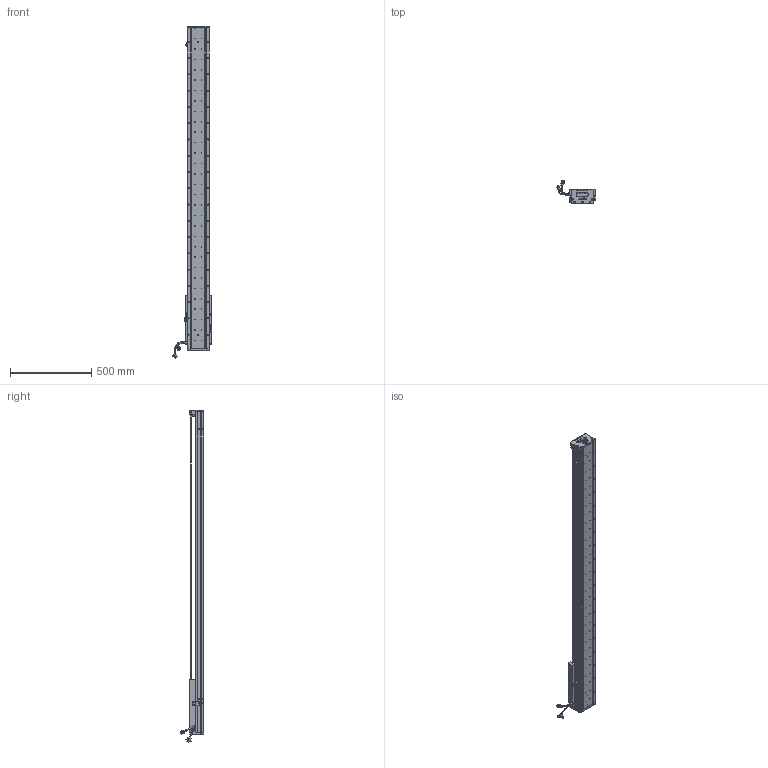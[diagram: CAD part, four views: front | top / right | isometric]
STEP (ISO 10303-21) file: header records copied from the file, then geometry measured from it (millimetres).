
FILE_DESCRIPTION (( 'STEP AP203' ), '1' );
FILE_NAME ('Z4-RY140D-1-L500-B-K.SLDASM_1600.step', '2021-05-17T08:17:00', ( '盈信电脑' ), ( '东莞市道滘镇水果街19号' ), 'SwSTEP 2.0', 'SolidWorks 2016', '' );
FILE_SCHEMA (( 'CONFIG_CONTROL_DESIGN' ));
Length unit declared in the file: millimetre
Products named in the file (36): SCALE-Part-2; SCREW-M1.6-1; 覜茼ん672; 詩湍狟揤裔; SEAL-Part-1; Z4-RY140-L500直线电机模组底座_1600; PSLH080_PSLF2; SCREW-M1.6; COVER-Part-1; SEAL; Z4-RY140圉猾敕臏賑輸(21遴); 榋妏寠巭燃_暯_M2_2; Z-RY140感应器672光电感应片; HOLDER0; 080黍杅芛假蚾釱21遴; HARNESS-Part-1; SCALE; HARNESS-Part-2; SCREW-M1.7-1; 140雄赽晤鎢ん堤盄; SHIELDPLATE; LABEL-Part-1; PBU_SHEET; Z4-RY140D-1-L500-B-K.SLDASM_1600; SCREW-M1.7; Z4-RY140-L500詩湍100mm遵_1600; SCREW-M1.6-2; Z-140詩湍傷裔啣; 140蚥薯蝶輸; HARNESS; SCREW-M1.6-3; SCALE-Part-1; 140-Z-臏賑輸盄裔(21遴); COVER; 詩湍奻揤裔; LABEL
Assembly tree (41 placements, depth 4):
  Z4-RY140D-1-L500-B-K.SLDASM_1600
    Z4-RY140-L500直线电机模组底座_1600
    Z-RY140感应器672光电感应片
    Z4-RY140圉猾敕臏賑輸(21遴)
    覜茼ん672  x3
    Z4-RY140-L500詩湍100mm遵_1600
    PSLH080_PSLF2
      SCALE
        SCALE-Part-1
        SCALE-Part-2
      HARNESS
        HARNESS-Part-1
        HARNESS-Part-2
      LABEL
        LABEL-Part-1
      COVER
        COVER-Part-1
      SEAL
        SEAL-Part-1
      榋妏寠巭燃_暯_M2_2
      SHIELDPLATE
      SCREW-M1.7
      SCREW-M1.7-1
      PBU_SHEET
      SCREW-M1.6
      SCREW-M1.6-1
      SCREW-M1.6-2
      SCREW-M1.6-3
      HOLDER0
    080黍杅芛假蚾釱21遴
    140-Z-臏賑輸盄裔(21遴)
    Z-140詩湍傷裔啣  x2
    詩湍狟揤裔  x2
    詩湍奻揤裔  x2
    140蚥薯蝶輸  x2
    140雄赽晤鎢ん堤盄
Bounding box: 239.84 x 143.88 x 2040.87 mm (x, y, z)
Volume: 6977342.4 mm3; surface area: 1790744.1 mm2
Topology: 36 solids, 36 shells, 3644 faces, 9802 edges, 6205 vertices
Faces by surface type: cylinder 1886, plane 1274, cone 362, torus 69, bspline 53
Entity records: 112482 total; most frequent: CARTESIAN_POINT 30567, ORIENTED_EDGE 16604, DIRECTION 15758, EDGE_CURVE 8302, AXIS2_PLACEMENT_3D 5844, VERTEX_POINT 5373, VECTOR 4070, LINE 4070
